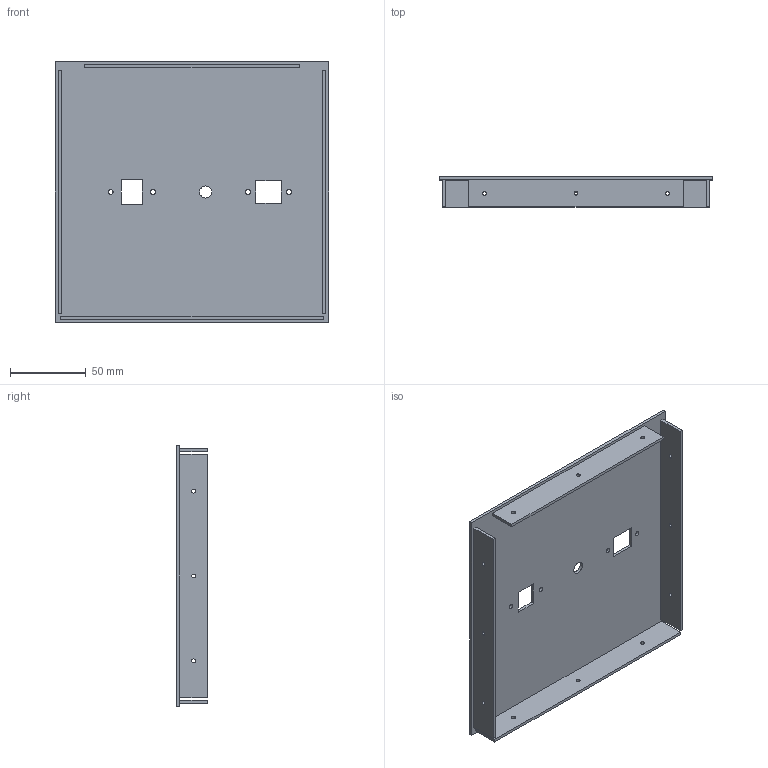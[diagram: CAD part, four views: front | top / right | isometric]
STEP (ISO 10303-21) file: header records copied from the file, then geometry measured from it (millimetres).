
FILE_DESCRIPTION(('FreeCAD Model'),'2;1');
FILE_NAME('Open CASCADE Shape Model','2026-06-08T10:03:13',('FreeCAD'),( 'FreeCAD'),'Open CASCADE STEP processor 7.8','FreeCAD','Unknown');
FILE_SCHEMA(('AUTOMOTIVE_DESIGN { 1 0 10303 214 1 1 1 1 }'));
Length unit declared in the file: millimetre
Products named in the file (1): Open CASCADE STEP translator 7.8 4
Bounding box: 180.9 x 20 x 172.27 mm (x, y, z)
Volume: 84057.2 mm3; surface area: 86332.6 mm2
Topology: 1 solids, 1 shells, 51 faces, 135 edges, 90 vertices
Faces by surface type: plane 34, cylinder 17
Full cylindrical faces by diameter (mm): 2.6 x12, 3.2 x4, 8 x1
Entity records: 1669 total; most frequent: CARTESIAN_POINT 277, DIRECTION 273, ORIENTED_EDGE 270, EDGE_CURVE 135, LINE 101, VECTOR 101, FACE_BOUND 93, EDGE_LOOP 93
